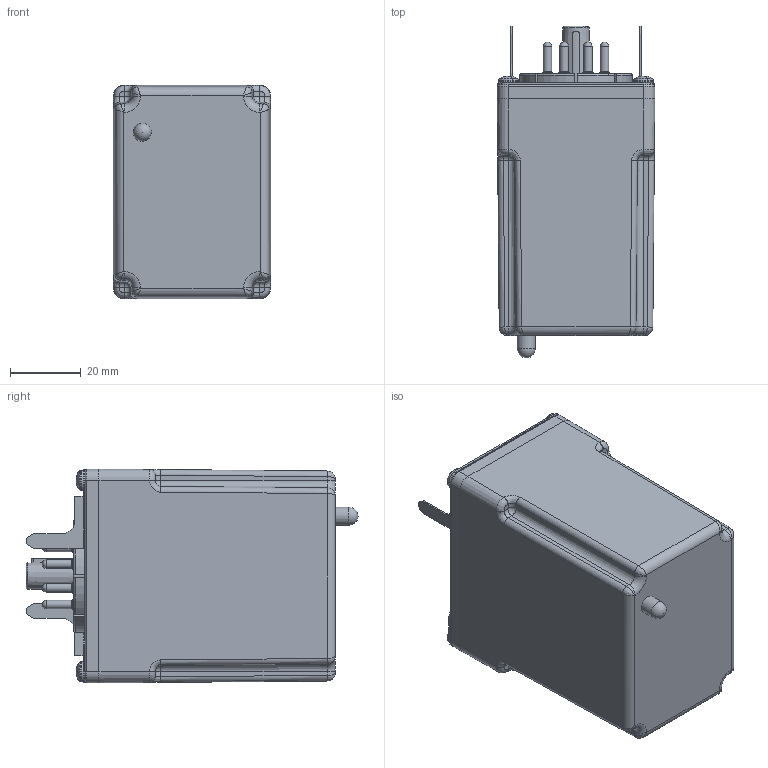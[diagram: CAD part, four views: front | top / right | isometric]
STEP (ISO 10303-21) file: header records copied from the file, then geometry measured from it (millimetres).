
FILE_DESCRIPTION(('FreeCAD Model'),'2;1');
FILE_NAME('Open CASCADE Shape Model','2023-06-09T10:53:31',(''),(''), 'Open CASCADE STEP processor 7.6','FreeCAD','Unknown');
FILE_SCHEMA(('AUTOMOTIVE_DESIGN { 1 0 10303 214 1 1 1 1 }'));
Products named in the file (1): Compound
Bounding box: 44.45 x 93.6 x 60.33 mm (x, y, z)
Surface area: 46583.2 mm2 (no closed solid volume)
Topology: 0 solids, 21 shells, 1906 faces, 4892 edges, 3038 vertices
Faces by surface type: plane 730, cylinder 701, bspline 200, torus 121, cone 57, sphere 57, revolution 40
Full cylindrical faces by diameter (mm): 0.254 x16, 1.257 x8, 1.714 x8, 1.905 x16, 2.362 x16, 2.464 x8, 3.175 x8, 4.191 x8, 5.08 x1, 7.925 x1
Entity records: 177986 total; most frequent: CARTESIAN_POINT 85755, DIRECTION 15822, ORIENTED_EDGE 9638, PCURVE 9638, DEFINITIONAL_REPRESENTATION 9638, LINE 9447, VECTOR 9447, EDGE_CURVE 4827
